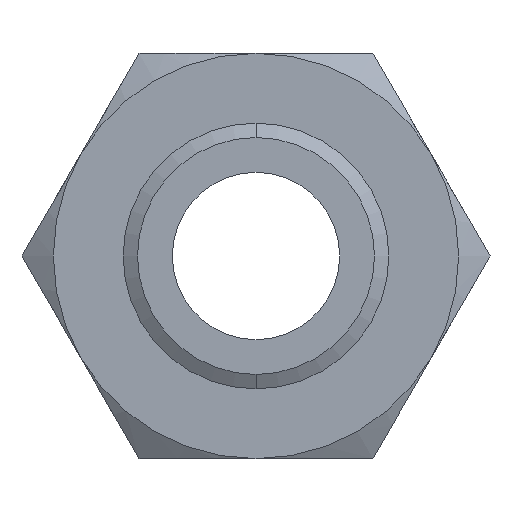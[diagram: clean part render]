
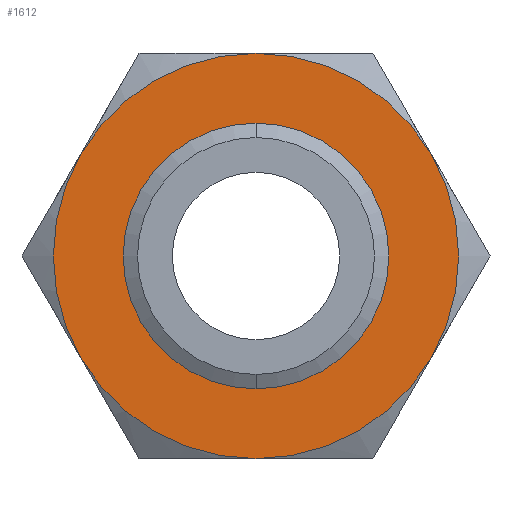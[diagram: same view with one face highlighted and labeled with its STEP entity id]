
A CAD part, front view. The second image highlights one B-rep face of the part: STEP entity #1612.
In plain terms, the highlighted planar face has unit normal (0, -1, 0).
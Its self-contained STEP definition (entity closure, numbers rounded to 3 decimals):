
#294 = EDGE_CURVE ( 'NONE', #1802, #1801, #2402, .T. ) ;
#295 = ORIENTED_EDGE ( 'NONE', *, *, #294, .F. ) ;
#524 = DIRECTION ( 'NONE',  ( 0., 0., 1. ) ) ;
#525 = DIRECTION ( 'NONE',  ( 0., 1., 0. ) ) ;
#526 = CARTESIAN_POINT ( 'NONE',  ( 0., 0., 0. ) ) ;
#527 = AXIS2_PLACEMENT_3D ( 'NONE', #526, #525, #524 ) ;
#528 = CIRCLE ( 'NONE', #527, 77.5 ) ;
#529 = CARTESIAN_POINT ( 'NONE',  ( 67.117, 0., -38.75 ) ) ;
#530 = CARTESIAN_POINT ( 'NONE',  ( 0., 0., -77.5 ) ) ;
#535 = DIRECTION ( 'NONE',  ( 0., 0., 1. ) ) ;
#536 = DIRECTION ( 'NONE',  ( 0., 1., 0. ) ) ;
#537 = CARTESIAN_POINT ( 'NONE',  ( 0., 0., 0. ) ) ;
#538 = AXIS2_PLACEMENT_3D ( 'NONE', #537, #536, #535 ) ;
#539 = CIRCLE ( 'NONE', #538, 77.5 ) ;
#540 = CARTESIAN_POINT ( 'NONE',  ( 67.117, 0., 38.75 ) ) ;
#541 = DIRECTION ( 'NONE',  ( 0., 0., 1. ) ) ;
#542 = DIRECTION ( 'NONE',  ( 0., 1., 0. ) ) ;
#543 = CARTESIAN_POINT ( 'NONE',  ( 0., 0., 0. ) ) ;
#544 = AXIS2_PLACEMENT_3D ( 'NONE', #543, #542, #541 ) ;
#545 = CIRCLE ( 'NONE', #544, 77.5 ) ;
#546 = CARTESIAN_POINT ( 'NONE',  ( 0., 0., 77.5 ) ) ;
#558 = AXIS2_PLACEMENT_3D ( 'NONE', #621, #620, #619 ) ;
#559 = CIRCLE ( 'NONE', #558, 77.5 ) ;
#560 = CARTESIAN_POINT ( 'NONE',  ( -67.117, 0., -38.75 ) ) ;
#561 = CARTESIAN_POINT ( 'NONE',  ( -67.117, 0., 38.75 ) ) ;
#566 = DIRECTION ( 'NONE',  ( 0., 0., 1. ) ) ;
#567 = DIRECTION ( 'NONE',  ( 0., 1., 0. ) ) ;
#569 = CARTESIAN_POINT ( 'NONE',  ( 44.745, 0., -77.5 ) ) ;
#570 = AXIS2_PLACEMENT_3D ( 'NONE', #569, #567, #566 ) ;
#571 = PLANE ( 'NONE',  #570 ) ;
#572 = FACE_BOUND ( 'NONE', #1605, .T. ) ;
#573 = FACE_OUTER_BOUND ( 'NONE', #1586, .T. ) ;
#585 = DIRECTION ( 'NONE',  ( 0., 0., 1. ) ) ;
#586 = DIRECTION ( 'NONE',  ( 0., 1., 0. ) ) ;
#587 = CARTESIAN_POINT ( 'NONE',  ( 0., 0., 0. ) ) ;
#588 = AXIS2_PLACEMENT_3D ( 'NONE', #587, #586, #585 ) ;
#589 = CIRCLE ( 'NONE', #588, 77.5 ) ;
#614 = DIRECTION ( 'NONE',  ( 0., 0., 1. ) ) ;
#615 = DIRECTION ( 'NONE',  ( 0., 1., 0. ) ) ;
#616 = CARTESIAN_POINT ( 'NONE',  ( 0., 0., 0. ) ) ;
#617 = AXIS2_PLACEMENT_3D ( 'NONE', #616, #615, #614 ) ;
#618 = CIRCLE ( 'NONE', #617, 77.5 ) ;
#619 = DIRECTION ( 'NONE',  ( 0., 0., 1. ) ) ;
#620 = DIRECTION ( 'NONE',  ( 0., 1., 0. ) ) ;
#621 = CARTESIAN_POINT ( 'NONE',  ( 0., 0., 0. ) ) ;
#913 = CARTESIAN_POINT ( 'NONE',  ( 0., 0., 45.301 ) ) ;
#914 = CARTESIAN_POINT ( 'NONE',  ( 0., 0., -45.301 ) ) ;
#915 = DIRECTION ( 'NONE',  ( 0., 0., -1. ) ) ;
#916 = DIRECTION ( 'NONE',  ( 0., -1., 0. ) ) ;
#917 = CARTESIAN_POINT ( 'NONE',  ( 0., 0., 0. ) ) ;
#918 = AXIS2_PLACEMENT_3D ( 'NONE', #917, #916, #915 ) ;
#919 = CIRCLE ( 'NONE', #918, 45.301 ) ;
#1568 = ORIENTED_EDGE ( 'NONE', *, *, #1588, .F. ) ;
#1586 = EDGE_LOOP ( 'NONE', ( #1568, #1591, #1615, #1618, #1600, #1603 ) ) ;
#1588 = EDGE_CURVE ( 'NONE', #1589, #1590, #545, .T. ) ;
#1589 = VERTEX_POINT ( 'NONE', #546 ) ;
#1590 = VERTEX_POINT ( 'NONE', #540 ) ;
#1591 = ORIENTED_EDGE ( 'NONE', *, *, #1592, .F. ) ;
#1592 = EDGE_CURVE ( 'NONE', #1614, #1589, #539, .T. ) ;
#1598 = VERTEX_POINT ( 'NONE', #530 ) ;
#1600 = ORIENTED_EDGE ( 'NONE', *, *, #1601, .F. ) ;
#1601 = EDGE_CURVE ( 'NONE', #1602, #1598, #528, .T. ) ;
#1602 = VERTEX_POINT ( 'NONE', #529 ) ;
#1603 = ORIENTED_EDGE ( 'NONE', *, *, #1604, .F. ) ;
#1604 = EDGE_CURVE ( 'NONE', #1590, #1602, #589, .T. ) ;
#1605 = EDGE_LOOP ( 'NONE', ( #1606, #295 ) ) ;
#1606 = ORIENTED_EDGE ( 'NONE', *, *, #1800, .F. ) ;
#1612 = ADVANCED_FACE ( 'NONE', ( #573, #572 ), #571, .F. ) ;
#1614 = VERTEX_POINT ( 'NONE', #561 ) ;
#1615 = ORIENTED_EDGE ( 'NONE', *, *, #1616, .F. ) ;
#1616 = EDGE_CURVE ( 'NONE', #1617, #1614, #559, .T. ) ;
#1617 = VERTEX_POINT ( 'NONE', #560 ) ;
#1618 = ORIENTED_EDGE ( 'NONE', *, *, #1619, .F. ) ;
#1619 = EDGE_CURVE ( 'NONE', #1598, #1617, #618, .T. ) ;
#1800 = EDGE_CURVE ( 'NONE', #1801, #1802, #919, .T. ) ;
#1801 = VERTEX_POINT ( 'NONE', #914 ) ;
#1802 = VERTEX_POINT ( 'NONE', #913 ) ;
#2395 = DIRECTION ( 'NONE',  ( 0., 0., -1. ) ) ;
#2396 = DIRECTION ( 'NONE',  ( 0., -1., 0. ) ) ;
#2397 = CARTESIAN_POINT ( 'NONE',  ( 0., 0., 0. ) ) ;
#2398 = AXIS2_PLACEMENT_3D ( 'NONE', #2397, #2396, #2395 ) ;
#2402 = CIRCLE ( 'NONE', #2398, 45.301 ) ;
